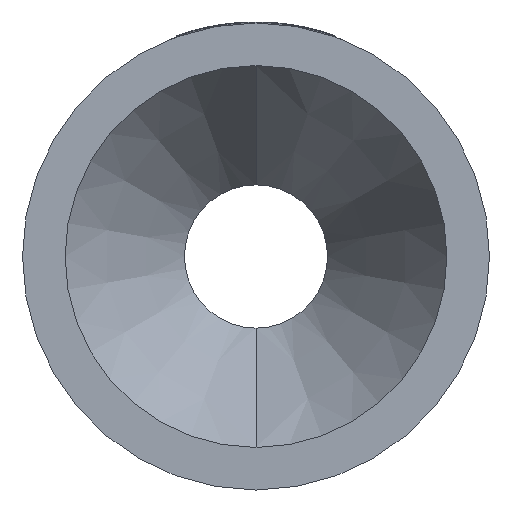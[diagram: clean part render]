
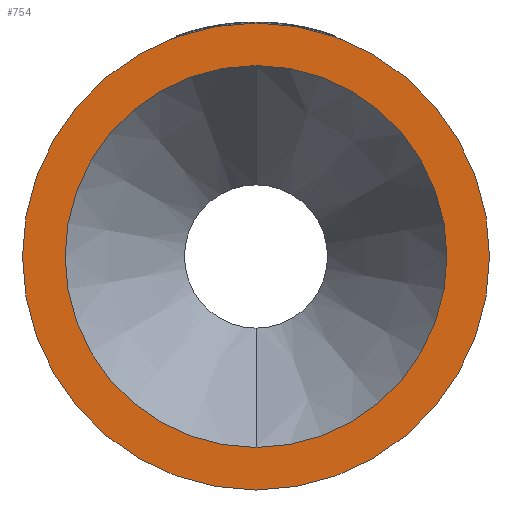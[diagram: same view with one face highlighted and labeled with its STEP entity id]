
A CAD part, left-side view. The second image highlights one B-rep face of the part: STEP entity #754.
In plain terms, the highlighted planar face has unit normal (-1, 0, 0).
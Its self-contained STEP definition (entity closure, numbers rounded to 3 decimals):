
#207 = DIRECTION ( 'NONE',  ( 0., 0., -1. ) ) ;
#210 = DIRECTION ( 'NONE',  ( 1., 0., 0. ) ) ;
#219 = CARTESIAN_POINT ( 'NONE',  ( 0., 92., 0. ) ) ;
#258 = PLANE ( 'NONE',  #3339 ) ;
#478 = AXIS2_PLACEMENT_3D ( 'NONE', #2100, #2094, #2080 ) ;
#566 = AXIS2_PLACEMENT_3D ( 'NONE', #3164, #3099, #3089 ) ;
#701 = EDGE_CURVE ( 'NONE', #2411, #3317, #1759, .T. ) ;
#754 = ADVANCED_FACE ( 'NONE', ( #3159, #3516 ), #258, .F. ) ;
#755 = AXIS2_PLACEMENT_3D ( 'NONE', #1483, #1474, #1458 ) ;
#858 = CARTESIAN_POINT ( 'NONE',  ( 0., 0., 92. ) ) ;
#883 = DIRECTION ( 'NONE',  ( 0., 0., 1. ) ) ;
#888 = DIRECTION ( 'NONE',  ( -1., 0., 0. ) ) ;
#891 = CARTESIAN_POINT ( 'NONE',  ( 0., 0., 0. ) ) ;
#934 = EDGE_CURVE ( 'NONE', #2999, #2679, #2581, .T. ) ;
#998 = ORIENTED_EDGE ( 'NONE', *, *, #701, .T. ) ;
#1235 = CARTESIAN_POINT ( 'NONE',  ( 0., 0., -112.5 ) ) ;
#1458 = DIRECTION ( 'NONE',  ( 0., 0., 1. ) ) ;
#1474 = DIRECTION ( 'NONE',  ( -1., 0., 0. ) ) ;
#1483 = CARTESIAN_POINT ( 'NONE',  ( 0., 0., 0. ) ) ;
#1702 = CIRCLE ( 'NONE', #755, 112.5 ) ;
#1759 = CIRCLE ( 'NONE', #2079, 112.5 ) ;
#2079 = AXIS2_PLACEMENT_3D ( 'NONE', #891, #888, #883 ) ;
#2080 = DIRECTION ( 'NONE',  ( 0., 0., 1. ) ) ;
#2094 = DIRECTION ( 'NONE',  ( -1., 0., 0. ) ) ;
#2100 = CARTESIAN_POINT ( 'NONE',  ( 0., 0., 0. ) ) ;
#2309 = EDGE_CURVE ( 'NONE', #3317, #2411, #1702, .T. ) ;
#2375 = CARTESIAN_POINT ( 'NONE',  ( 0., 0., 112.5 ) ) ;
#2411 = VERTEX_POINT ( 'NONE', #1235 ) ;
#2456 = ORIENTED_EDGE ( 'NONE', *, *, #2789, .F. ) ;
#2457 = ORIENTED_EDGE ( 'NONE', *, *, #2309, .T. ) ;
#2546 = ORIENTED_EDGE ( 'NONE', *, *, #934, .F. ) ;
#2581 = CIRCLE ( 'NONE', #566, 92. ) ;
#2679 = VERTEX_POINT ( 'NONE', #2997 ) ;
#2789 = EDGE_CURVE ( 'NONE', #2679, #2999, #3525, .T. ) ;
#2997 = CARTESIAN_POINT ( 'NONE',  ( 0., 0., -92. ) ) ;
#2999 = VERTEX_POINT ( 'NONE', #858 ) ;
#3028 = EDGE_LOOP ( 'NONE', ( #2457, #998 ) ) ;
#3029 = EDGE_LOOP ( 'NONE', ( #2546, #2456 ) ) ;
#3089 = DIRECTION ( 'NONE',  ( 0., 0., 1. ) ) ;
#3099 = DIRECTION ( 'NONE',  ( -1., 0., 0. ) ) ;
#3159 = FACE_BOUND ( 'NONE', #3029, .T. ) ;
#3164 = CARTESIAN_POINT ( 'NONE',  ( 0., 0., 0. ) ) ;
#3317 = VERTEX_POINT ( 'NONE', #2375 ) ;
#3339 = AXIS2_PLACEMENT_3D ( 'NONE', #219, #210, #207 ) ;
#3516 = FACE_OUTER_BOUND ( 'NONE', #3028, .T. ) ;
#3525 = CIRCLE ( 'NONE', #478, 92. ) ;
